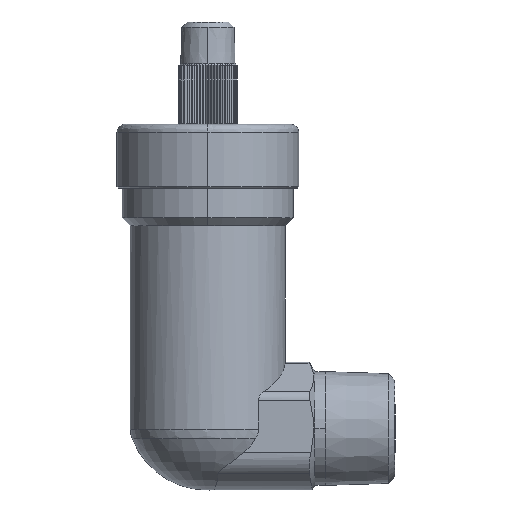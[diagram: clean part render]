
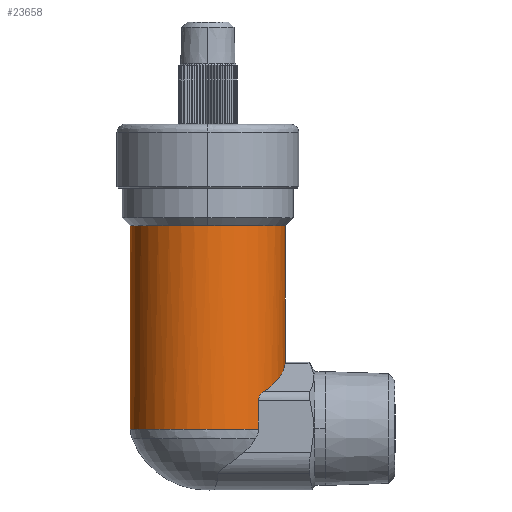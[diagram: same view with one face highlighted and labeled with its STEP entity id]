
A CAD part, left-side view. The second image highlights one B-rep face of the part: STEP entity #23658.
In plain terms, the highlighted cylindrical face has radius 14.5 mm (diameter 29 mm), a partial arc.
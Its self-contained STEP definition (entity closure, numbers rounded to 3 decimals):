
#1360 = ORIENTED_EDGE ( 'NONE', *, *, #2059, .F. ) ;
#1842 = VERTEX_POINT ( 'NONE', #31206 ) ;
#2059 = EDGE_CURVE ( 'NONE', #1842, #18406, #12933, .T. ) ;
#2227 = EDGE_CURVE ( 'NONE', #23047, #38601, #46926, .T. ) ;
#2784 = DIRECTION ( 'NONE',  ( 0., 0., -1. ) ) ;
#3144 = VECTOR ( 'NONE', #24284, 1000. ) ;
#3659 = ORIENTED_EDGE ( 'NONE', *, *, #38852, .T. ) ;
#3984 = DIRECTION ( 'NONE',  ( 0., 0., -1. ) ) ;
#4254 = VERTEX_POINT ( 'NONE', #46604 ) ;
#6583 = CARTESIAN_POINT ( 'NONE',  ( -10.969, -9.484, -42.153 ) ) ;
#7124 = DIRECTION ( 'NONE',  ( 0., 0., -1. ) ) ;
#7183 = B_SPLINE_CURVE_WITH_KNOTS ( 'NONE', 3,
 ( #18474, #31039, #46863, #9816, #18212, #43305 ),
 .UNSPECIFIED., .F., .F.,
 ( 4, 2, 4 ),
 ( 0.001, 0.002, 0.002 ),
 .UNSPECIFIED. ) ;
#7637 = EDGE_CURVE ( 'NONE', #13307, #38601, #11620, .T. ) ;
#7760 = AXIS2_PLACEMENT_3D ( 'NONE', #48833, #7124, #33015 ) ;
#8198 = AXIS2_PLACEMENT_3D ( 'NONE', #24318, #2784, #48580 ) ;
#9101 = CIRCLE ( 'NONE', #8198, 14.5 ) ;
#9350 = CARTESIAN_POINT ( 'NONE',  ( -11., -9.447, -42.553 ) ) ;
#9786 = CARTESIAN_POINT ( 'NONE',  ( 0., 14.5, -9.8 ) ) ;
#9816 = CARTESIAN_POINT ( 'NONE',  ( -0.686, -14.485, -35.47 ) ) ;
#10555 = AXIS2_PLACEMENT_3D ( 'NONE', #14369, #22767, #39444 ) ;
#10714 = CARTESIAN_POINT ( 'NONE',  ( -10.258, -10.249, -40.991 ) ) ;
#11235 = CARTESIAN_POINT ( 'NONE',  ( -11., -9.447, -42.553 ) ) ;
#11261 = EDGE_CURVE ( 'NONE', #30158, #1842, #17582, .T. ) ;
#11507 = EDGE_LOOP ( 'NONE', ( #38733, #15254, #3659, #13272, #22371, #45304, #1360, #28937, #21294 ) ) ;
#11620 = LINE ( 'NONE', #28246, #39174 ) ;
#12055 = LINE ( 'NONE', #11235, #3144 ) ;
#12539 = LINE ( 'NONE', #53990, #28083 ) ;
#12933 = B_SPLINE_CURVE_WITH_KNOTS ( 'NONE', 3,
 ( #29555, #31672, #10714, #18308, #27346, #30603, #48301, #43939, #34915, #6583, #47228, #47774 ),
 .UNSPECIFIED., .F., .F.,
 ( 4, 2, 2, 2, 2, 4 ),
 ( 0., 0.001, 0.001, 0.001, 0.002, 0.002 ),
 .UNSPECIFIED. ) ;
#13272 = ORIENTED_EDGE ( 'NONE', *, *, #7637, .T. ) ;
#13307 = VERTEX_POINT ( 'NONE', #9786 ) ;
#14369 = CARTESIAN_POINT ( 'NONE',  ( 0., 0., -9.8 ) ) ;
#14949 = CARTESIAN_POINT ( 'NONE',  ( -4.405, -14.23, -37.591 ) ) ;
#15254 = ORIENTED_EDGE ( 'NONE', *, *, #51997, .T. ) ;
#15674 = FACE_OUTER_BOUND ( 'NONE', #11507, .T. ) ;
#16846 = CARTESIAN_POINT ( 'NONE',  ( -14.5, 0., -9.8 ) ) ;
#17582 =( BOUNDED_CURVE ( )  B_SPLINE_CURVE ( 3, ( #52324, #14949, #31594, #48238 ),
 .UNSPECIFIED., .F., .F. ) 
 B_SPLINE_CURVE_WITH_KNOTS ( ( 4, 4 ),
 ( 4.781, 5.473 ),
 .UNSPECIFIED. ) 
 CURVE ( )  GEOMETRIC_REPRESENTATION_ITEM ( )  RATIONAL_B_SPLINE_CURVE ( ( 1., 0.96, 0.96, 1. ) ) 
 REPRESENTATION_ITEM ( '' )  );
#17780 = CARTESIAN_POINT ( 'NONE',  ( -11., -9.447, -47.853 ) ) ;
#18212 = CARTESIAN_POINT ( 'NONE',  ( -0.848, -14.476, -35.537 ) ) ;
#18308 = CARTESIAN_POINT ( 'NONE',  ( -10.489, -10.013, -41.208 ) ) ;
#18406 = VERTEX_POINT ( 'NONE', #9350 ) ;
#18474 = CARTESIAN_POINT ( 'NONE',  ( 0., -14.5, -35.357 ) ) ;
#18788 = EDGE_CURVE ( 'NONE', #4254, #30158, #7183, .T. ) ;
#21294 = ORIENTED_EDGE ( 'NONE', *, *, #18788, .F. ) ;
#22371 = ORIENTED_EDGE ( 'NONE', *, *, #2227, .F. ) ;
#22767 = DIRECTION ( 'NONE',  ( 0., 0., -1. ) ) ;
#23047 = VERTEX_POINT ( 'NONE', #17780 ) ;
#23658 = ADVANCED_FACE ( 'NONE', ( #15674 ), #24719, .T. ) ;
#24284 = DIRECTION ( 'NONE',  ( 0., 0., -1. ) ) ;
#24318 = CARTESIAN_POINT ( 'NONE',  ( 0., 0., -9.8 ) ) ;
#24719 = CYLINDRICAL_SURFACE ( 'NONE', #39200, 14.5 ) ;
#25255 = VERTEX_POINT ( 'NONE', #16846 ) ;
#27346 = CARTESIAN_POINT ( 'NONE',  ( -10.596, -9.899, -41.336 ) ) ;
#28083 = VECTOR ( 'NONE', #50142, 1000. ) ;
#28246 = CARTESIAN_POINT ( 'NONE',  ( 0., 14.5, -9.8 ) ) ;
#28937 = ORIENTED_EDGE ( 'NONE', *, *, #11261, .F. ) ;
#29555 = CARTESIAN_POINT ( 'NONE',  ( -10., -10.5, -40.821 ) ) ;
#29947 = CARTESIAN_POINT ( 'NONE',  ( -1., -14.465, -35.625 ) ) ;
#30158 = VERTEX_POINT ( 'NONE', #29947 ) ;
#30603 = CARTESIAN_POINT ( 'NONE',  ( -10.734, -9.748, -41.553 ) ) ;
#31039 = CARTESIAN_POINT ( 'NONE',  ( -0.174, -14.5, -35.357 ) ) ;
#31206 = CARTESIAN_POINT ( 'NONE',  ( -10., -10.5, -40.821 ) ) ;
#31594 = CARTESIAN_POINT ( 'NONE',  ( -7.528, -12.854, -39.394 ) ) ;
#31672 = CARTESIAN_POINT ( 'NONE',  ( -10.134, -10.373, -40.898 ) ) ;
#33015 = DIRECTION ( 'NONE',  ( 0., 1., 0. ) ) ;
#33542 = CARTESIAN_POINT ( 'NONE',  ( 0., -14.5, -9.8 ) ) ;
#34915 = CARTESIAN_POINT ( 'NONE',  ( -10.886, -9.578, -41.881 ) ) ;
#38601 = VERTEX_POINT ( 'NONE', #50509 ) ;
#38733 = ORIENTED_EDGE ( 'NONE', *, *, #45846, .F. ) ;
#38852 = EDGE_CURVE ( 'NONE', #25255, #13307, #49728, .T. ) ;
#39174 = VECTOR ( 'NONE', #44863, 1000. ) ;
#39200 = AXIS2_PLACEMENT_3D ( 'NONE', #45159, #3984, #41650 ) ;
#39444 = DIRECTION ( 'NONE',  ( 0., 1., 0. ) ) ;
#41650 = DIRECTION ( 'NONE',  ( 0., 1., 0. ) ) ;
#43305 = CARTESIAN_POINT ( 'NONE',  ( -1., -14.465, -35.625 ) ) ;
#43939 = CARTESIAN_POINT ( 'NONE',  ( -10.852, -9.617, -41.794 ) ) ;
#44863 = DIRECTION ( 'NONE',  ( 0., 0., -1. ) ) ;
#45159 = CARTESIAN_POINT ( 'NONE',  ( 0., 0., -9.8 ) ) ;
#45304 = ORIENTED_EDGE ( 'NONE', *, *, #53950, .F. ) ;
#45846 = EDGE_CURVE ( 'NONE', #49747, #4254, #12539, .T. ) ;
#46604 = CARTESIAN_POINT ( 'NONE',  ( 0., -14.5, -35.357 ) ) ;
#46863 = CARTESIAN_POINT ( 'NONE',  ( -0.35, -14.497, -35.38 ) ) ;
#46926 = CIRCLE ( 'NONE', #7760, 14.5 ) ;
#47228 = CARTESIAN_POINT ( 'NONE',  ( -11., -9.447, -42.351 ) ) ;
#47774 = CARTESIAN_POINT ( 'NONE',  ( -11., -9.447, -42.553 ) ) ;
#48238 = CARTESIAN_POINT ( 'NONE',  ( -10., -10.5, -40.821 ) ) ;
#48301 = CARTESIAN_POINT ( 'NONE',  ( -10.777, -9.702, -41.63 ) ) ;
#48580 = DIRECTION ( 'NONE',  ( 0., 1., 0. ) ) ;
#48833 = CARTESIAN_POINT ( 'NONE',  ( 0., 0., -47.853 ) ) ;
#49728 = CIRCLE ( 'NONE', #10555, 14.5 ) ;
#49747 = VERTEX_POINT ( 'NONE', #33542 ) ;
#50142 = DIRECTION ( 'NONE',  ( 0., 0., -1. ) ) ;
#50509 = CARTESIAN_POINT ( 'NONE',  ( 0., 14.5, -47.853 ) ) ;
#51997 = EDGE_CURVE ( 'NONE', #49747, #25255, #9101, .T. ) ;
#52324 = CARTESIAN_POINT ( 'NONE',  ( -1., -14.465, -35.625 ) ) ;
#53950 = EDGE_CURVE ( 'NONE', #18406, #23047, #12055, .T. ) ;
#53990 = CARTESIAN_POINT ( 'NONE',  ( 0., -14.5, -9.8 ) ) ;
